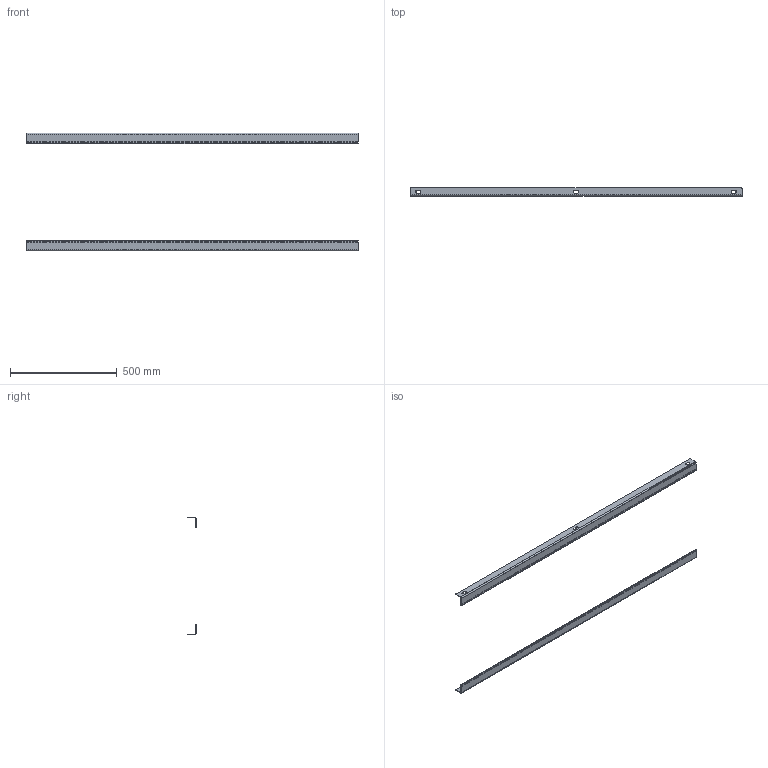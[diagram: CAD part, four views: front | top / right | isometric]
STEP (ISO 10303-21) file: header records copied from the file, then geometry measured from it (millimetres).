
FILE_DESCRIPTION((''),'2;1');
FILE_NAME('RACK-ANGLE_ASM','2013-03-04T',('Joelb'),('SAGINAW CONTROL & ENGINEERING'),'PRO/ENGINEER BY PARAMETRIC TECHNOLOGY CORPORATION, 2012070','PRO/ENGINEER BY PARAMETRIC TECHNOLOGY CORPORATION, 2012070','');
FILE_SCHEMA(('AUTOMOTIVE_DESIGN { 1 0 10303 214 1 1 1 1 }'));
Length unit declared in the file: inch
Products named in the file (2): RACK-ANGLE; RACK-ANGLE_ASM
Assembly tree (2 placements, depth 2):
  RACK-ANGLE_ASM
    RACK-ANGLE  x2
Bounding box: 1555.75 x 38.1 x 552.48 mm (x, y, z)
Volume: 787303.9 mm3; surface area: 532874.1 mm2
Topology: 2 solids, 2 shells, 480 faces, 1412 edges, 936 vertices
Faces by surface type: cylinder 444, plane 36
Entity records: 8803 total; most frequent: DIRECTION 1638, CARTESIAN_POINT 1423, ORIENTED_EDGE 1412, EDGE_CURVE 706, AXIS2_PLACEMENT_3D 688, VERTEX_POINT 468, EDGE_LOOP 456, CIRCLE 444
